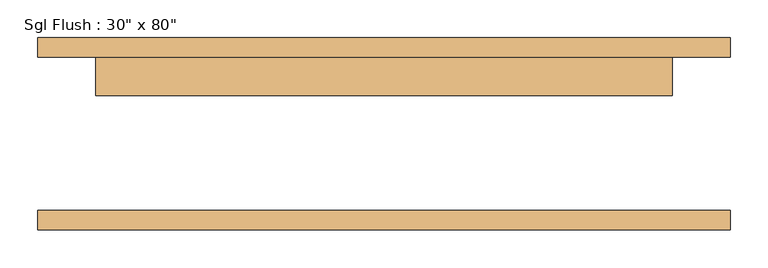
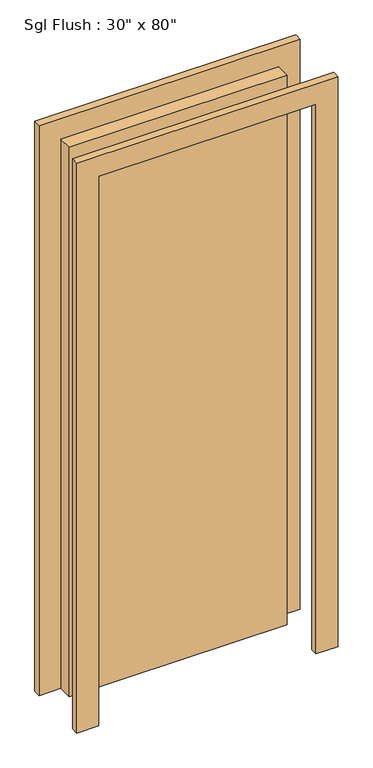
"""IFC4 building model written with IfcOpenShell, lengths in millimetres: door geometry."""

from ifc_helpers import new_model, si_unit, frame, origin, origin_with_axes, place, context, project, spatial, polyline, outline, extrude, source, transform, mapped, element, save


def door_fadea3f2(model_context):
    return source(origin(), model_context, "Body", "SweptSolid", [
        extrude(outline(polyline([(2108.2, -457.2), (0.0, -457.2), (0.0, -381.0), (2032.0, -381.0), (2032.0, 381.0), (0.0, 381.0), (0.0, 457.2), (2108.2, 457.2), (2108.2, -457.2)])), frame((0.0, 101.6, 0.0), z_axis=(0.0, 1.0, 0.0), x_axis=(0.0, 0.0, 1.0)), (0.0, 0.0, 1.0), 25.4),
        extrude(outline(polyline([(2108.2, 457.2), (2108.2, -457.2), (0.0, -457.2), (0.0, -381.0), (2032.0, -381.0), (2032.0, 381.0), (0.0, 381.0), (0.0, 457.2), (2108.2, 457.2)])), frame((0.0, -127.0, 0.0), z_axis=(0.0, 1.0, 0.0), x_axis=(0.0, 0.0, 1.0)), (0.0, 0.0, 1.0), 25.4),
        extrude(outline(polyline([(381.0, 50.8), (-381.0, 50.8), (-381.0, 101.6), (381.0, 101.6), (381.0, 50.8)])), origin_with_axes(), (0.0, 0.0, 1.0), 2032.0),
    ])


if __name__ == "__main__":
    model = new_model("IFC4")
    model_context = context("Model", 3, world=origin())
    ifc_project = project(units=[si_unit("LENGTHUNIT", "METRE", prefix="MILLI")], contexts=[model_context])
    site = spatial("IfcSite", under=ifc_project)
    building = spatial("IfcBuilding", under=site)
    placement = place(None, origin())
    door_shape = door_fadea3f2(model_context)
    element("IfcDoor", 1, ObjectType="Sgl Flush : 30\" x 80\"", at=placement, inside=building, context=model_context, shape_type="MappedRepresentation", body=[
        mapped(door_shape, transform((0.0, 0.0, 0.0), x_axis=(1.0, 0.0, 0.0), y_axis=(0.0, 1.0, 0.0), z_axis=(0.0, 0.0, 1.0))),
    ])
    save(model, "model.ifc")
